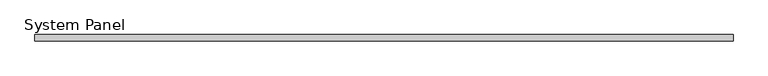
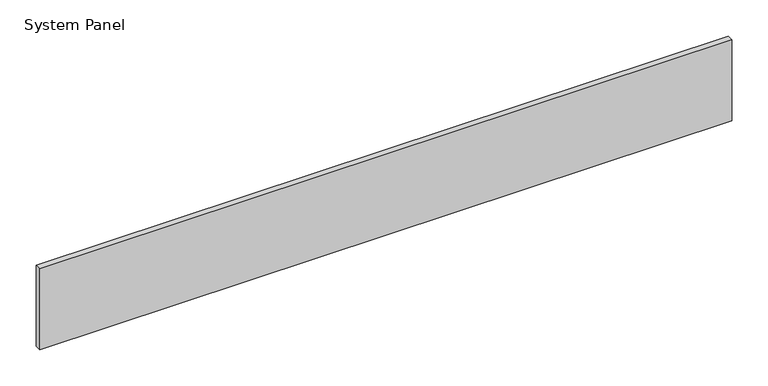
"""IFC4 building model written with IfcOpenShell, lengths in millimetres: plate geometry, System Panel : VACÍO."""

from ifc_helpers import new_model, si_unit, origin, origin_with_axes, place, context, project, spatial, polyline, outline, extrude, source, transform, mapped, element, save


def system_panel_86425350(model_context):
    return source(origin(), model_context, "Body", "SweptSolid", [
        extrude(outline(polyline([(554.2609662, -5.0), (-554.2609662, -5.0), (-554.2609662, 5.0), (554.2609662, 5.0), (554.2609662, -5.0)])), origin_with_axes(), (0.0, 0.0, 1.0), 137.0338449),
    ])


if __name__ == "__main__":
    model = new_model("IFC4")
    model_context = context("Model", 3, world=origin())
    ifc_project = project(units=[si_unit("LENGTHUNIT", "METRE", prefix="MILLI")], contexts=[model_context])
    site = spatial("IfcSite", under=ifc_project)
    building = spatial("IfcBuilding", under=site)
    placement = place(None, origin())
    system_panel_shape = system_panel_86425350(model_context)
    element("IfcPlate", 1, ObjectType="System Panel : VACÍO", at=placement, inside=building, context=model_context, shape_type="MappedRepresentation", body=[
        mapped(system_panel_shape, transform((0.0, 0.0, 0.0), x_axis=(1.0, 0.0, 0.0), y_axis=(0.0, 1.0, 0.0), z_axis=(0.0, 0.0, 1.0))),
    ])
    save(model, "model.ifc")
